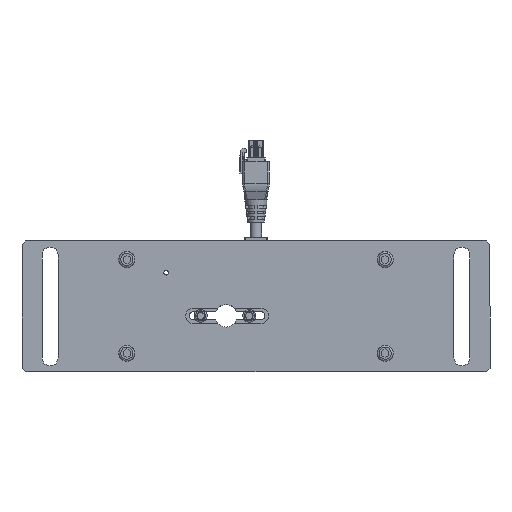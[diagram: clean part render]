
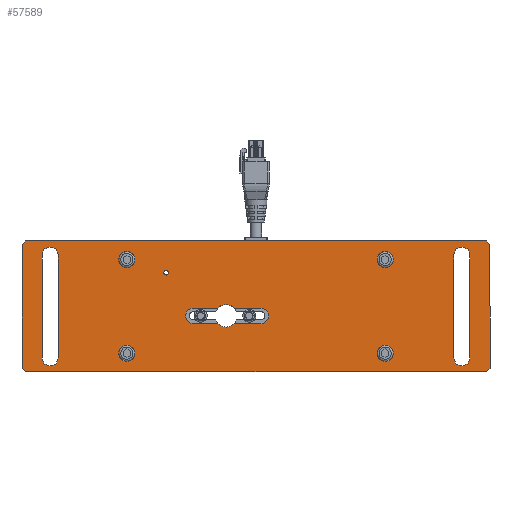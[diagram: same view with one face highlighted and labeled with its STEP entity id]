
A CAD part, front view. The second image highlights one B-rep face of the part: STEP entity #57589.
In plain terms, the highlighted planar face has unit normal (0, -1, 0) as drawn and (0, 0, 1) by its records, which use the part's own axes.
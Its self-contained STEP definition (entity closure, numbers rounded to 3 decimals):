
#1511=CIRCLE('',#60091,4.25);
#1512=CIRCLE('',#60092,4.25);
#1513=CIRCLE('',#60093,4.25);
#1514=CIRCLE('',#60094,4.25);
#1515=CIRCLE('',#60095,1.23);
#1516=CIRCLE('',#60096,6.);
#1517=CIRCLE('',#60097,4.15);
#1518=CIRCLE('',#60098,6.);
#1519=CIRCLE('',#60099,4.15);
#1520=CIRCLE('',#60100,4.35);
#1521=CIRCLE('',#60101,4.35);
#1522=CIRCLE('',#60102,4.35);
#1523=CIRCLE('',#60103,4.35);
#3501=ORIENTED_EDGE('',*,*,#17805,.F.);
#3502=ORIENTED_EDGE('',*,*,#17806,.F.);
#3503=ORIENTED_EDGE('',*,*,#17807,.F.);
#3504=ORIENTED_EDGE('',*,*,#17808,.F.);
#3505=ORIENTED_EDGE('',*,*,#17809,.F.);
#3506=ORIENTED_EDGE('',*,*,#17810,.F.);
#3507=ORIENTED_EDGE('',*,*,#17811,.F.);
#3508=ORIENTED_EDGE('',*,*,#17812,.F.);
#3509=ORIENTED_EDGE('',*,*,#17813,.T.);
#3510=ORIENTED_EDGE('',*,*,#17814,.F.);
#3511=ORIENTED_EDGE('',*,*,#17804,.T.);
#3512=ORIENTED_EDGE('',*,*,#17815,.T.);
#3513=ORIENTED_EDGE('',*,*,#17816,.T.);
#3514=ORIENTED_EDGE('',*,*,#17817,.F.);
#3515=ORIENTED_EDGE('',*,*,#17800,.T.);
#3516=ORIENTED_EDGE('',*,*,#17818,.T.);
#3517=ORIENTED_EDGE('',*,*,#17819,.T.);
#3518=ORIENTED_EDGE('',*,*,#17820,.T.);
#3519=ORIENTED_EDGE('',*,*,#17821,.T.);
#3520=ORIENTED_EDGE('',*,*,#17822,.T.);
#3521=ORIENTED_EDGE('',*,*,#17823,.T.);
#3522=ORIENTED_EDGE('',*,*,#17824,.T.);
#3523=ORIENTED_EDGE('',*,*,#17825,.T.);
#3524=ORIENTED_EDGE('',*,*,#17826,.T.);
#3525=ORIENTED_EDGE('',*,*,#17827,.T.);
#3526=ORIENTED_EDGE('',*,*,#17828,.T.);
#3527=ORIENTED_EDGE('',*,*,#17829,.T.);
#3528=ORIENTED_EDGE('',*,*,#17830,.T.);
#3529=ORIENTED_EDGE('',*,*,#17831,.T.);
#17800=EDGE_CURVE('',#24950,#24951,#29733,.T.);
#17804=EDGE_CURVE('',#24953,#24955,#29737,.T.);
#17805=EDGE_CURVE('',#24956,#24957,#1511,.T.);
#17806=EDGE_CURVE('',#24958,#24956,#29738,.T.);
#17807=EDGE_CURVE('',#24959,#24958,#1512,.T.);
#17808=EDGE_CURVE('',#24957,#24959,#29739,.T.);
#17809=EDGE_CURVE('',#24960,#24961,#1513,.T.);
#17810=EDGE_CURVE('',#24962,#24960,#29740,.T.);
#17811=EDGE_CURVE('',#24963,#24962,#1514,.T.);
#17812=EDGE_CURVE('',#24961,#24963,#29741,.T.);
#17813=EDGE_CURVE('',#24964,#24964,#1515,.T.);
#17814=EDGE_CURVE('',#24953,#24965,#1516,.T.);
#17815=EDGE_CURVE('',#24955,#24966,#1517,.T.);
#17816=EDGE_CURVE('',#24966,#24967,#29742,.T.);
#17817=EDGE_CURVE('',#24950,#24967,#1518,.T.);
#17818=EDGE_CURVE('',#24951,#24968,#1519,.T.);
#17819=EDGE_CURVE('',#24968,#24965,#29743,.T.);
#17820=EDGE_CURVE('',#24969,#24970,#29744,.T.);
#17821=EDGE_CURVE('',#24970,#24971,#29745,.F.);
#17822=EDGE_CURVE('',#24971,#24972,#29746,.T.);
#17823=EDGE_CURVE('',#24972,#24973,#29747,.F.);
#17824=EDGE_CURVE('',#24973,#24974,#29748,.T.);
#17825=EDGE_CURVE('',#24974,#24975,#29749,.F.);
#17826=EDGE_CURVE('',#24975,#24976,#29750,.T.);
#17827=EDGE_CURVE('',#24976,#24969,#29751,.F.);
#17828=EDGE_CURVE('',#24977,#24977,#1520,.T.);
#17829=EDGE_CURVE('',#24978,#24978,#1521,.T.);
#17830=EDGE_CURVE('',#24979,#24979,#1522,.T.);
#17831=EDGE_CURVE('',#24980,#24980,#1523,.T.);
#24950=VERTEX_POINT('',#78683);
#24951=VERTEX_POINT('',#78685);
#24953=VERTEX_POINT('',#78690);
#24955=VERTEX_POINT('',#78694);
#24956=VERTEX_POINT('',#78698);
#24957=VERTEX_POINT('',#78699);
#24958=VERTEX_POINT('',#78701);
#24959=VERTEX_POINT('',#78703);
#24960=VERTEX_POINT('',#78706);
#24961=VERTEX_POINT('',#78707);
#24962=VERTEX_POINT('',#78709);
#24963=VERTEX_POINT('',#78711);
#24964=VERTEX_POINT('',#78714);
#24965=VERTEX_POINT('',#78716);
#24966=VERTEX_POINT('',#78718);
#24967=VERTEX_POINT('',#78720);
#24968=VERTEX_POINT('',#78723);
#24969=VERTEX_POINT('',#78726);
#24970=VERTEX_POINT('',#78727);
#24971=VERTEX_POINT('',#78729);
#24972=VERTEX_POINT('',#78731);
#24973=VERTEX_POINT('',#78733);
#24974=VERTEX_POINT('',#78735);
#24975=VERTEX_POINT('',#78737);
#24976=VERTEX_POINT('',#78739);
#24977=VERTEX_POINT('',#78742);
#24978=VERTEX_POINT('',#78744);
#24979=VERTEX_POINT('',#78746);
#24980=VERTEX_POINT('',#78748);
#29733=LINE('',#78686,#34549);
#29737=LINE('',#78695,#34553);
#29738=LINE('',#78700,#34554);
#29739=LINE('',#78704,#34555);
#29740=LINE('',#78708,#34556);
#29741=LINE('',#78712,#34557);
#29742=LINE('',#78719,#34558);
#29743=LINE('',#78724,#34559);
#29744=LINE('',#78725,#34560);
#29745=LINE('',#78728,#34561);
#29746=LINE('',#78730,#34562);
#29747=LINE('',#78732,#34563);
#29748=LINE('',#78734,#34564);
#29749=LINE('',#78736,#34565);
#29750=LINE('',#78738,#34566);
#29751=LINE('',#78740,#34567);
#34549=VECTOR('',#64695,1000.);
#34553=VECTOR('',#64701,1000.);
#34554=VECTOR('',#64706,1000.);
#34555=VECTOR('',#64709,1000.);
#34556=VECTOR('',#64712,1000.);
#34557=VECTOR('',#64715,1000.);
#34558=VECTOR('',#64722,1000.);
#34559=VECTOR('',#64727,1000.);
#34560=VECTOR('',#64728,1000.);
#34561=VECTOR('',#64729,1000.);
#34562=VECTOR('',#64730,1000.);
#34563=VECTOR('',#64731,1000.);
#34564=VECTOR('',#64732,1000.);
#34565=VECTOR('',#64733,1000.);
#34566=VECTOR('',#64734,1000.);
#34567=VECTOR('',#64735,1000.);
#39357=EDGE_LOOP('',(#3501,#3502,#3503,#3504));
#39358=EDGE_LOOP('',(#3505,#3506,#3507,#3508));
#39359=EDGE_LOOP('',(#3509));
#39360=EDGE_LOOP('',(#3510,#3511,#3512,#3513,#3514,#3515,#3516,#3517));
#39361=EDGE_LOOP('',(#3518,#3519,#3520,#3521,#3522,#3523,#3524,#3525));
#39362=EDGE_LOOP('',(#3526));
#39363=EDGE_LOOP('',(#3527));
#39364=EDGE_LOOP('',(#3528));
#39365=EDGE_LOOP('',(#3529));
#41930=FACE_BOUND('',#39357,.T.);
#41931=FACE_BOUND('',#39358,.T.);
#41932=FACE_BOUND('',#39359,.T.);
#41933=FACE_BOUND('',#39360,.T.);
#41934=FACE_BOUND('',#39361,.T.);
#41935=FACE_BOUND('',#39362,.T.);
#41936=FACE_BOUND('',#39363,.T.);
#41937=FACE_BOUND('',#39364,.T.);
#41938=FACE_BOUND('',#39365,.T.);
#44503=PLANE('',#60090);
#57589=ADVANCED_FACE('',(#41930,#41931,#41932,#41933,#41934,#41935,#41936,
#41937,#41938),#44503,.T.);
#60090=AXIS2_PLACEMENT_3D('',#78696,#64702,#64703);
#60091=AXIS2_PLACEMENT_3D('',#78697,#64704,#64705);
#60092=AXIS2_PLACEMENT_3D('',#78702,#64707,#64708);
#60093=AXIS2_PLACEMENT_3D('',#78705,#64710,#64711);
#60094=AXIS2_PLACEMENT_3D('',#78710,#64713,#64714);
#60095=AXIS2_PLACEMENT_3D('',#78713,#64716,#64717);
#60096=AXIS2_PLACEMENT_3D('',#78715,#64718,#64719);
#60097=AXIS2_PLACEMENT_3D('',#78717,#64720,#64721);
#60098=AXIS2_PLACEMENT_3D('',#78721,#64723,#64724);
#60099=AXIS2_PLACEMENT_3D('',#78722,#64725,#64726);
#60100=AXIS2_PLACEMENT_3D('',#78741,#64736,#64737);
#60101=AXIS2_PLACEMENT_3D('',#78743,#64738,#64739);
#60102=AXIS2_PLACEMENT_3D('',#78745,#64740,#64741);
#60103=AXIS2_PLACEMENT_3D('',#78747,#64742,#64743);
#64695=DIRECTION('',(-1.,0.,0.));
#64701=DIRECTION('',(1.,0.,0.));
#64702=DIRECTION('',(0.,0.,1.));
#64703=DIRECTION('',(1.,0.,0.));
#64704=DIRECTION('',(0.,0.,1.));
#64705=DIRECTION('',(1.,0.,0.));
#64706=DIRECTION('',(0.,1.,0.));
#64707=DIRECTION('',(0.,0.,1.));
#64708=DIRECTION('',(-1.,0.,0.));
#64709=DIRECTION('',(0.,-1.,0.));
#64710=DIRECTION('',(0.,0.,1.));
#64711=DIRECTION('',(1.,0.,0.));
#64712=DIRECTION('',(0.,1.,0.));
#64713=DIRECTION('',(0.,0.,1.));
#64714=DIRECTION('',(-1.,0.,0.));
#64715=DIRECTION('',(0.,-1.,0.));
#64716=DIRECTION('',(0.,0.,-1.));
#64717=DIRECTION('',(0.,-1.,0.));
#64718=DIRECTION('',(0.,0.,1.));
#64719=DIRECTION('',(1.,0.,0.));
#64720=DIRECTION('',(0.,0.,-1.));
#64721=DIRECTION('',(-1.,0.,0.));
#64722=DIRECTION('',(-1.,0.,0.));
#64723=DIRECTION('',(0.,0.,1.));
#64724=DIRECTION('',(1.,0.,0.));
#64725=DIRECTION('',(0.,0.,-1.));
#64726=DIRECTION('',(1.,0.,0.));
#64727=DIRECTION('',(1.,0.,0.));
#64728=DIRECTION('',(0.,1.,0.));
#64729=DIRECTION('',(0.707,-0.707,0.));
#64730=DIRECTION('',(-1.,0.,0.));
#64731=DIRECTION('',(0.707,0.707,0.));
#64732=DIRECTION('',(0.,-1.,0.));
#64733=DIRECTION('',(-0.707,0.707,0.));
#64734=DIRECTION('',(1.,0.,0.));
#64735=DIRECTION('',(-0.707,-0.707,0.));
#64736=DIRECTION('',(0.,0.,-1.));
#64737=DIRECTION('',(0.,-1.,0.));
#64738=DIRECTION('',(0.,0.,-1.));
#64739=DIRECTION('',(0.,-1.,0.));
#64740=DIRECTION('',(0.,0.,-1.));
#64741=DIRECTION('',(0.,-1.,0.));
#64742=DIRECTION('',(0.,0.,-1.));
#64743=DIRECTION('',(0.,-1.,0.));
#78683=CARTESIAN_POINT('',(-20.333,-9.15,0.));
#78685=CARTESIAN_POINT('',(-33.4,-9.15,0.));
#78686=CARTESIAN_POINT('',(2.6,-9.15,0.));
#78690=CARTESIAN_POINT('',(-11.667,-0.85,0.));
#78694=CARTESIAN_POINT('',(2.6,-0.85,0.));
#78695=CARTESIAN_POINT('',(-33.4,-0.85,0.));
#78696=CARTESIAN_POINT('',(-125.,-35.,0.));
#78697=CARTESIAN_POINT('',(110.,27.5,0.));
#78698=CARTESIAN_POINT('',(114.25,27.5,0.));
#78699=CARTESIAN_POINT('',(105.75,27.5,0.));
#78700=CARTESIAN_POINT('',(114.25,-27.5,0.));
#78701=CARTESIAN_POINT('',(114.25,-27.5,0.));
#78702=CARTESIAN_POINT('',(110.,-27.5,0.));
#78703=CARTESIAN_POINT('',(105.75,-27.5,0.));
#78704=CARTESIAN_POINT('',(105.75,27.5,0.));
#78705=CARTESIAN_POINT('',(-110.,27.5,0.));
#78706=CARTESIAN_POINT('',(-105.75,27.5,0.));
#78707=CARTESIAN_POINT('',(-114.25,27.5,0.));
#78708=CARTESIAN_POINT('',(-105.75,-27.5,0.));
#78709=CARTESIAN_POINT('',(-105.75,-27.5,0.));
#78710=CARTESIAN_POINT('',(-110.,-27.5,0.));
#78711=CARTESIAN_POINT('',(-114.25,-27.5,0.));
#78712=CARTESIAN_POINT('',(-114.25,27.5,0.));
#78713=CARTESIAN_POINT('',(-48.,18.,0.));
#78714=CARTESIAN_POINT('',(-48.,16.771,0.));
#78715=CARTESIAN_POINT('',(-16.,-5.,0.));
#78716=CARTESIAN_POINT('',(-20.333,-0.85,0.));
#78717=CARTESIAN_POINT('',(2.6,-5.,0.));
#78718=CARTESIAN_POINT('',(2.6,-9.15,0.));
#78719=CARTESIAN_POINT('',(2.6,-9.15,0.));
#78720=CARTESIAN_POINT('',(-11.667,-9.15,0.));
#78721=CARTESIAN_POINT('',(-16.,-5.,0.));
#78722=CARTESIAN_POINT('',(-33.4,-5.,0.));
#78723=CARTESIAN_POINT('',(-33.4,-0.85,0.));
#78724=CARTESIAN_POINT('',(-33.4,-0.85,0.));
#78725=CARTESIAN_POINT('',(125.,-35.,0.));
#78726=CARTESIAN_POINT('',(125.,-33.,0.));
#78727=CARTESIAN_POINT('',(125.,33.,0.));
#78728=CARTESIAN_POINT('',(34.,124.,0.));
#78729=CARTESIAN_POINT('',(123.,35.,0.));
#78730=CARTESIAN_POINT('',(125.,35.,0.));
#78731=CARTESIAN_POINT('',(-123.,35.,0.));
#78732=CARTESIAN_POINT('',(-159.,-1.,0.));
#78733=CARTESIAN_POINT('',(-125.,33.,0.));
#78734=CARTESIAN_POINT('',(-125.,35.,0.));
#78735=CARTESIAN_POINT('',(-125.,-33.,0.));
#78736=CARTESIAN_POINT('',(-124.,-34.,0.));
#78737=CARTESIAN_POINT('',(-123.,-35.,0.));
#78738=CARTESIAN_POINT('',(-125.,-35.,0.));
#78739=CARTESIAN_POINT('',(123.,-35.,0.));
#78740=CARTESIAN_POINT('',(-1.,-159.,0.));
#78741=CARTESIAN_POINT('',(-69.,25.,0.));
#78742=CARTESIAN_POINT('',(-69.,20.65,0.));
#78743=CARTESIAN_POINT('',(69.,25.,0.));
#78744=CARTESIAN_POINT('',(69.,20.65,0.));
#78745=CARTESIAN_POINT('',(69.,-25.,0.));
#78746=CARTESIAN_POINT('',(69.,-29.35,0.));
#78747=CARTESIAN_POINT('',(-69.,-25.,0.));
#78748=CARTESIAN_POINT('',(-69.,-29.35,0.));
